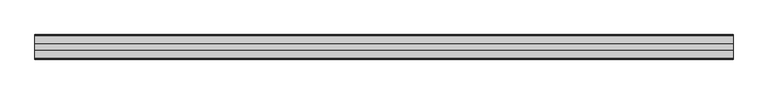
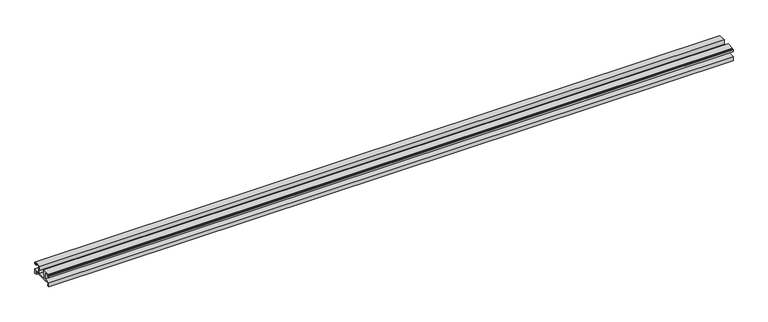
"""IFC4 building model written with IfcOpenShell, lengths in millimetres: proxy geometry, Weiku - Montante - Acoplamento vidro : Weiku - Montante - Acoplamento vidro."""

from ifc_helpers import new_model, si_unit, frame, origin, place, context, project, spatial, polyline, outline, extrude, source, transform, mapped, element, save


def generic_models_6bafbbca(model_context):
    return source(origin(), model_context, "Body", "SweptSolid", [
        extrude(outline(polyline([(-35.405, 5.1494), (-35.405, 6.8004), (-45.741, 6.8004), (-45.741, 2.6094), (-43.8784, 2.6094), (-43.8784, 0.0), (-47.9014508, 0.0), (-47.9014508, 8.79), (-34.946, 8.79), (-34.946, 23.3104), (-43.5397, 23.3104), (-43.5397, 19.204), (-47.9, 19.204), (-47.9, 22.8024), (-46.9264, 22.8024), (-46.9264, 20.3894), (-44.725, 20.3894), (-44.725, 23.9454), (-45.5264504, 23.9454), (-45.5264504, 25.3), (-30.4164, 25.3), (-30.4164, 16.283), (-32.4484, 16.283), (-32.4484, 8.8), (-15.4516, 8.8), (-15.4516, 16.283), (-17.4836, 16.283), (-17.4836, 25.3), (-2.3735496, 25.3), (-2.3735496, 23.9454), (-3.175, 23.9454), (-3.175, 20.3894), (-0.9736, 20.3894), (-0.9736, 22.8024), (0.0, 22.8024), (0.0, 19.204), (-4.3603, 19.204), (-4.3603, 23.3104), (-12.954, 23.3104), (-12.954, 8.79), (0.0014508, 8.79), (0.0014508, 0.0), (-4.0216, 0.0), (-4.0216, 2.6094), (-2.159, 2.6094), (-2.159, 6.8004), (-12.495, 6.8004), (-12.495, 5.1494), (-35.405, 5.1494)])), frame((-679.25, 0.0, 0.0), z_axis=(1.0, 0.0, 0.0), x_axis=(0.0, 1.0, 0.0)), (0.0, 0.0, 1.0), 1358.5),
    ])


if __name__ == "__main__":
    model = new_model("IFC4")
    model_context = context("Model", 3, world=origin())
    ifc_project = project(units=[si_unit("LENGTHUNIT", "METRE", prefix="MILLI")], contexts=[model_context])
    site = spatial("IfcSite", under=ifc_project)
    building = spatial("IfcBuilding", under=site)
    placement = place(None, origin())
    generic_models_shape = generic_models_6bafbbca(model_context)
    element("IfcBuildingElementProxy", 1, Name="Weiku - Montante - Acoplamento vidro : Weiku - Montante - Acoplamento vidro", ObjectType="Weiku - Montante - Acoplamento vidro : Weiku - Montante - Acoplamento vidro", at=placement, inside=building, context=model_context, shape_type="MappedRepresentation", body=[
        mapped(generic_models_shape, transform((0.0, 0.0, 0.0), x_axis=(1.0, 0.0, 0.0), y_axis=(0.0, 1.0, 0.0), z_axis=(0.0, 0.0, 1.0))),
    ])
    save(model, "model.ifc")
